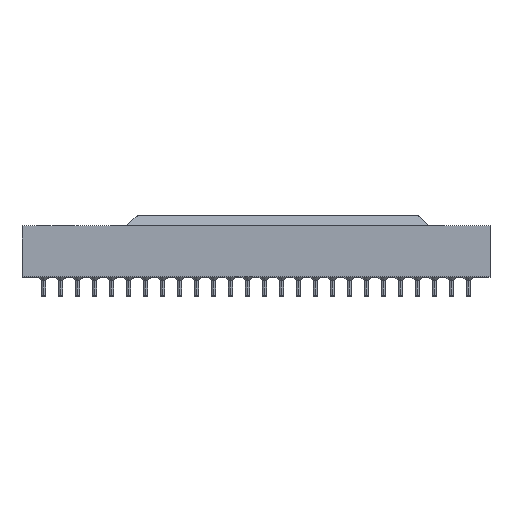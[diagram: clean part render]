
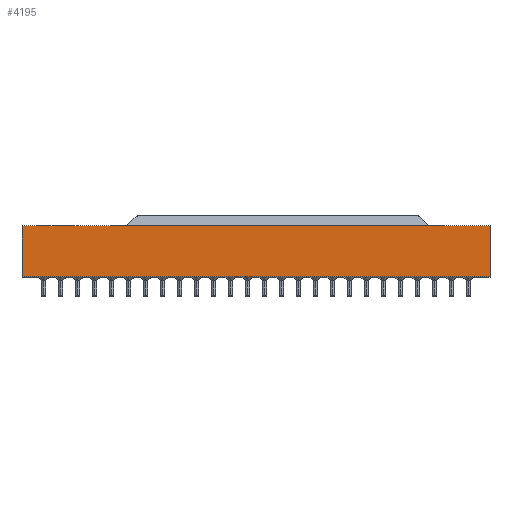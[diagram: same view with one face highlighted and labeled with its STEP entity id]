
A CAD part, top view. The second image highlights one B-rep face of the part: STEP entity #4195.
In plain terms, the highlighted planar face has unit normal (0, 0, 1).
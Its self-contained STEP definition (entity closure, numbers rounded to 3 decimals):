
#1424 = CARTESIAN_POINT ( 'NONE',  ( 17.5, 3.81, 16.1 ) ) ;
#4195 = ADVANCED_FACE ( 'NONE', ( #57689 ), #62299, .F. ) ;
#5263 = EDGE_CURVE ( 'NONE', #44963, #13663, #28918, .T. ) ;
#7295 = LINE ( 'NONE', #58884, #66133 ) ;
#7426 = ORIENTED_EDGE ( 'NONE', *, *, #5263, .T. ) ;
#7651 = DIRECTION ( 'NONE',  ( 0., -1., 0. ) ) ;
#9200 = ORIENTED_EDGE ( 'NONE', *, *, #69300, .F. ) ;
#9236 = EDGE_CURVE ( 'NONE', #13663, #38275, #58493, .T. ) ;
#10577 = VECTOR ( 'NONE', #7651, 1000. ) ;
#11734 = CARTESIAN_POINT ( 'NONE',  ( 17.5, 0., 16.1 ) ) ;
#13663 = VERTEX_POINT ( 'NONE', #24381 ) ;
#17012 = CARTESIAN_POINT ( 'NONE',  ( -17.5, 3.81, 16.1 ) ) ;
#18674 = DIRECTION ( 'NONE',  ( 0., -1., 0. ) ) ;
#19150 = CARTESIAN_POINT ( 'NONE',  ( -17.5, 0., 16.1 ) ) ;
#19532 = CARTESIAN_POINT ( 'NONE',  ( -17.5, 3.81, 16.1 ) ) ;
#19874 = DIRECTION ( 'NONE',  ( 1., 0., 0. ) ) ;
#22390 = ORIENTED_EDGE ( 'NONE', *, *, #56340, .F. ) ;
#24381 = CARTESIAN_POINT ( 'NONE',  ( -17.5, 0., 16.1 ) ) ;
#25918 = ORIENTED_EDGE ( 'NONE', *, *, #9236, .T. ) ;
#27154 = CARTESIAN_POINT ( 'NONE',  ( 17.5, 3.81, 16.1 ) ) ;
#28125 = VECTOR ( 'NONE', #19874, 1000. ) ;
#28918 = LINE ( 'NONE', #17012, #59282 ) ;
#36161 = DIRECTION ( 'NONE',  ( 1., 0., 0. ) ) ;
#38275 = VERTEX_POINT ( 'NONE', #11734 ) ;
#44963 = VERTEX_POINT ( 'NONE', #19532 ) ;
#56340 = EDGE_CURVE ( 'NONE', #73231, #38275, #71329, .T. ) ;
#57689 = FACE_OUTER_BOUND ( 'NONE', #65863, .T. ) ;
#58493 = LINE ( 'NONE', #19150, #28125 ) ;
#58884 = CARTESIAN_POINT ( 'NONE',  ( -17.5, 3.81, 16.1 ) ) ;
#59282 = VECTOR ( 'NONE', #18674, 1000. ) ;
#61456 = DIRECTION ( 'NONE',  ( -1., 0., 0. ) ) ;
#61468 = DIRECTION ( 'NONE',  ( 0., 0., -1. ) ) ;
#61710 = CARTESIAN_POINT ( 'NONE',  ( -17.5, 3.81, 16.1 ) ) ;
#62299 = PLANE ( 'NONE',  #72745 ) ;
#65863 = EDGE_LOOP ( 'NONE', ( #25918, #22390, #9200, #7426 ) ) ;
#66133 = VECTOR ( 'NONE', #36161, 1000. ) ;
#69300 = EDGE_CURVE ( 'NONE', #44963, #73231, #7295, .T. ) ;
#71329 = LINE ( 'NONE', #1424, #10577 ) ;
#72745 = AXIS2_PLACEMENT_3D ( 'NONE', #61710, #61468, #61456 ) ;
#73231 = VERTEX_POINT ( 'NONE', #27154 ) ;
